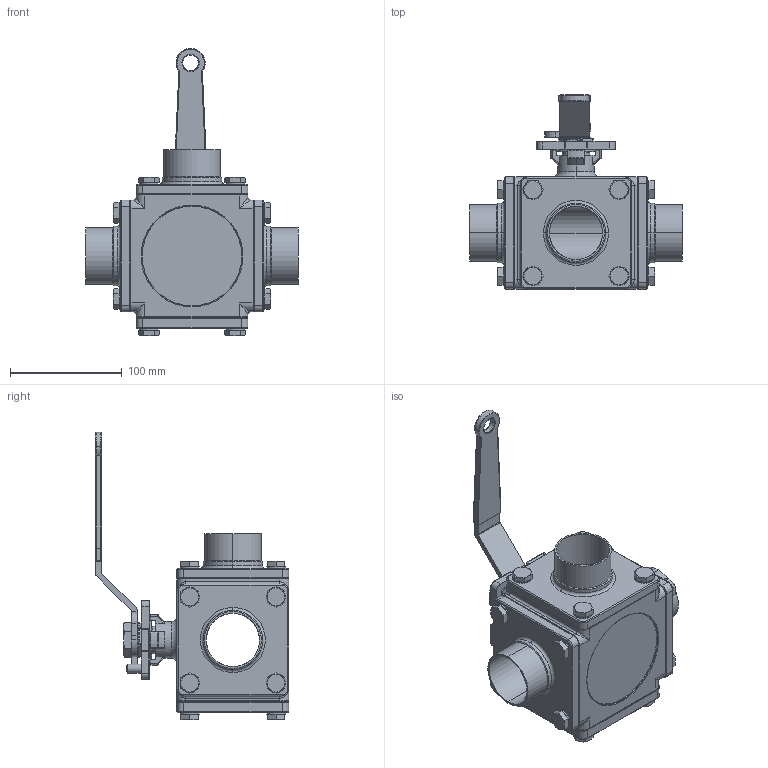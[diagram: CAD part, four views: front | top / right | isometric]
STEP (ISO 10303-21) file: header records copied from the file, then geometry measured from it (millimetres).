
FILE_DESCRIPTION (( 'STEP AP203' ), '1' );
FILE_NAME ('E93WWW-62.0-T.STEP', '2019-07-02T02:22:19', ( '' ), ( '' ), 'SwSTEP 2.0', 'SolidWorks 2014', '' );
FILE_SCHEMA (( 'CONFIG_CONTROL_DESIGN' ));
Length unit declared in the file: millimetre
Products named in the file (24): 14.HANDLE1.5-2.0; 9.RING1.5-2.0; E93WWW-62.0-T; 16.BOLT2.0; 18.THINNER NUT1.5-2.0; 2.3WAY-CAP-W-2.0; 22.SEAT-R-2.0; 11.STOP PIN1.5-2.0; 15.SPRING WASHER2.0-2.5; 8.STEM PACKING1.5-2.0; 22.SEAT-L-2.0; 4.SEAT1-2.0; 3.3WAY-BALL-2.0-T; 7.O-RING1.5-2.0; 19.3WAY-CAP2.0; 12.3WAY-NUT1.5-2.0; 1.3WAY-BODY2.0; 5.GASKET2.0; 17.LOCKING TAB1.5-2.0; 10.BEVEL WASHER1.5-2.0; 21.PLAIN WASHER1.5-2.0; 20.SEAT BACK2.0; 6.THRUST WASHER1.5-2.0; 13.STEM1.5-2.0
Assembly tree (58 placements, depth 2):
  E93WWW-62.0-T
    1.3WAY-BODY2.0
    13.STEM1.5-2.0
    7.O-RING1.5-2.0
    6.THRUST WASHER1.5-2.0
    22.SEAT-L-2.0  x2
    22.SEAT-R-2.0
    4.SEAT1-2.0
    20.SEAT BACK2.0
    19.3WAY-CAP2.0
    5.GASKET2.0  x2
    15.SPRING WASHER2.0-2.5  x16
    16.BOLT2.0  x16
    8.STEM PACKING1.5-2.0
    9.RING1.5-2.0
    10.BEVEL WASHER1.5-2.0  x2
    17.LOCKING TAB1.5-2.0
    18.THINNER NUT1.5-2.0
    21.PLAIN WASHER1.5-2.0
    14.HANDLE1.5-2.0
    12.3WAY-NUT1.5-2.0
    11.STOP PIN1.5-2.0
    3.3WAY-BALL-2.0-T
    2.3WAY-CAP-W-2.0  x3
Bounding box: 190 x 173.1 x 256.7 mm (x, y, z)
Volume: 1385215.9 mm3; surface area: 401196.4 mm2
Topology: 59 solids, 59 shells, 1480 faces, 3337 edges, 1966 vertices
Faces by surface type: cylinder 558, plane 396, cone 234, torus 195, sphere 58, bspline 39
Entity records: 33049 total; most frequent: CARTESIAN_POINT 7149, DIRECTION 5220, ORIENTED_EDGE 4396, AXIS2_PLACEMENT_3D 2215, EDGE_CURVE 2198, VERTEX_POINT 1300, CIRCLE 1225, EDGE_LOOP 1076
